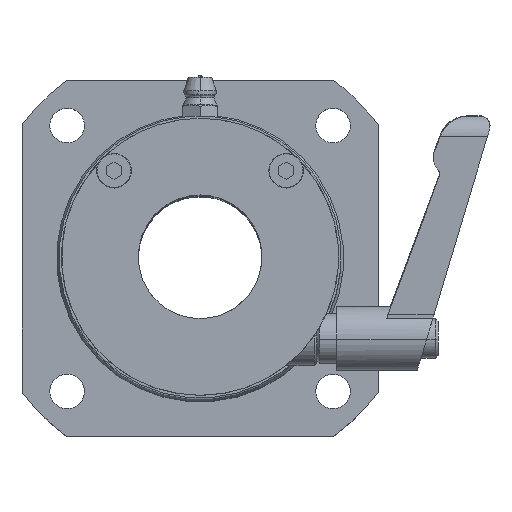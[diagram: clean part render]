
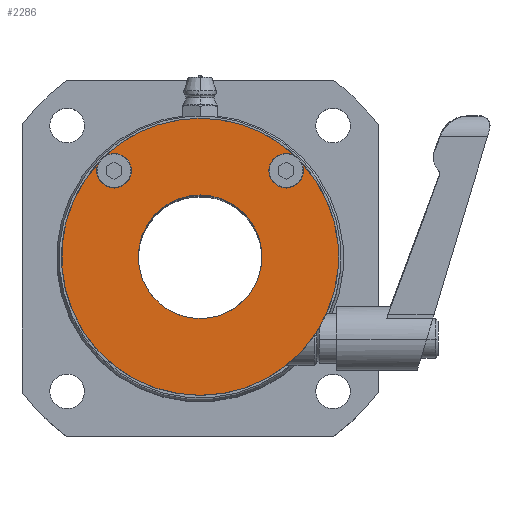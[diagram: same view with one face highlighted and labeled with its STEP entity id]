
A CAD part, top view. The second image highlights one B-rep face of the part: STEP entity #2286.
In plain terms, the highlighted planar face has unit normal (0, 0, 1).
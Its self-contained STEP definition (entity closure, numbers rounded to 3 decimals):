
#10 = CARTESIAN_POINT ( 'NONE',  ( -20.679, 16.844, 63.5 ) ) ;
#33 = DIRECTION ( 'NONE',  ( 0., 0., 1. ) ) ;
#173 = DIRECTION ( 'NONE',  ( 0., 0., 1. ) ) ;
#258 = AXIS2_PLACEMENT_3D ( 'NONE', #2091, #11200, #8413 ) ;
#379 = CARTESIAN_POINT ( 'NONE',  ( -6.779, -0.556, 63.5 ) ) ;
#464 = CARTESIAN_POINT ( 'NONE',  ( -6.779, -0.556, 63.5 ) ) ;
#700 = EDGE_CURVE ( 'NONE', #2029, #11515, #9970, .T. ) ;
#789 = CARTESIAN_POINT ( 'NONE',  ( 13.658, 18.583, 63.5 ) ) ;
#805 = VERTEX_POINT ( 'NONE', #3767 ) ;
#857 = EDGE_CURVE ( 'NONE', #4222, #7694, #6354, .T. ) ;
#991 = PLANE ( 'NONE',  #3355 ) ;
#1061 = AXIS2_PLACEMENT_3D ( 'NONE', #10235, #8246, #3588 ) ;
#1103 = CARTESIAN_POINT ( 'NONE',  ( 14.121, 16.844, 63.5 ) ) ;
#1120 = EDGE_CURVE ( 'NONE', #6531, #2127, #4078, .T. ) ;
#1237 = AXIS2_PLACEMENT_3D ( 'NONE', #3696, #7295, #4425 ) ;
#1346 = CARTESIAN_POINT ( 'NONE',  ( 10.621, 16.844, 63.5 ) ) ;
#1584 = DIRECTION ( 'NONE',  ( 1., 0., 0. ) ) ;
#1763 = FACE_BOUND ( 'NONE', #7623, .T. ) ;
#1855 = CARTESIAN_POINT ( 'NONE',  ( -24.179, 16.844, 63.5 ) ) ;
#2029 = VERTEX_POINT ( 'NONE', #9138 ) ;
#2031 = CARTESIAN_POINT ( 'NONE',  ( -6.779, -0.556, 63.5 ) ) ;
#2091 = CARTESIAN_POINT ( 'NONE',  ( 10.621, 16.844, 63.5 ) ) ;
#2118 = ORIENTED_EDGE ( 'NONE', *, *, #8564, .F. ) ;
#2127 = VERTEX_POINT ( 'NONE', #7693 ) ;
#2181 = VERTEX_POINT ( 'NONE', #6139 ) ;
#2230 = CARTESIAN_POINT ( 'NONE',  ( -6.779, 27.444, 63.5 ) ) ;
#2264 = DIRECTION ( 'NONE',  ( 0., 0., 1. ) ) ;
#2286 = ADVANCED_FACE ( 'NONE', ( #2711, #1763 ), #991, .T. ) ;
#2612 = ORIENTED_EDGE ( 'NONE', *, *, #8912, .F. ) ;
#2623 = DIRECTION ( 'NONE',  ( 1., 0., 0. ) ) ;
#2678 = ORIENTED_EDGE ( 'NONE', *, *, #8843, .T. ) ;
#2711 = FACE_OUTER_BOUND ( 'NONE', #8754, .T. ) ;
#2900 = ORIENTED_EDGE ( 'NONE', *, *, #700, .F. ) ;
#3355 = AXIS2_PLACEMENT_3D ( 'NONE', #3668, #173, #10991 ) ;
#3377 = ORIENTED_EDGE ( 'NONE', *, *, #5273, .T. ) ;
#3553 = EDGE_CURVE ( 'NONE', #2029, #6531, #7871, .T. ) ;
#3588 = DIRECTION ( 'NONE',  ( 0., -1., 0. ) ) ;
#3668 = CARTESIAN_POINT ( 'NONE',  ( -6.779, -0.556, 63.5 ) ) ;
#3696 = CARTESIAN_POINT ( 'NONE',  ( -24.179, 16.844, 63.5 ) ) ;
#3767 = CARTESIAN_POINT ( 'NONE',  ( -27.679, 16.844, 63.5 ) ) ;
#3855 = DIRECTION ( 'NONE',  ( 0., -1., 0. ) ) ;
#3877 = AXIS2_PLACEMENT_3D ( 'NONE', #7334, #10070, #3855 ) ;
#4078 = CIRCLE ( 'NONE', #3877, 28. ) ;
#4222 = VERTEX_POINT ( 'NONE', #1103 ) ;
#4245 = AXIS2_PLACEMENT_3D ( 'NONE', #9485, #9419, #7575 ) ;
#4370 = CARTESIAN_POINT ( 'NONE',  ( 7.121, 16.844, 63.5 ) ) ;
#4384 = ORIENTED_EDGE ( 'NONE', *, *, #9374, .F. ) ;
#4425 = DIRECTION ( 'NONE',  ( 1., 0., 0. ) ) ;
#4511 = CIRCLE ( 'NONE', #1061, 28. ) ;
#4536 = ORIENTED_EDGE ( 'NONE', *, *, #4565, .F. ) ;
#4565 = EDGE_CURVE ( 'NONE', #8164, #2181, #10839, .T. ) ;
#4629 = ORIENTED_EDGE ( 'NONE', *, *, #4657, .F. ) ;
#4657 = EDGE_CURVE ( 'NONE', #8472, #805, #8182, .T. ) ;
#4691 = CIRCLE ( 'NONE', #6037, 3.5 ) ;
#4775 = DIRECTION ( 'NONE',  ( 0., 0., 1. ) ) ;
#4819 = AXIS2_PLACEMENT_3D ( 'NONE', #10035, #7033, #10635 ) ;
#4983 = DIRECTION ( 'NONE',  ( 0., 0., 1. ) ) ;
#5177 = DIRECTION ( 'NONE',  ( 0., 0., 1. ) ) ;
#5273 = EDGE_CURVE ( 'NONE', #8472, #7714, #7510, .T. ) ;
#5416 = AXIS2_PLACEMENT_3D ( 'NONE', #2031, #4775, #5677 ) ;
#5514 = DIRECTION ( 'NONE',  ( 1., 0., 0. ) ) ;
#5677 = DIRECTION ( 'NONE',  ( 0., -1., 0. ) ) ;
#6037 = AXIS2_PLACEMENT_3D ( 'NONE', #8528, #33, #5514 ) ;
#6139 = CARTESIAN_POINT ( 'NONE',  ( -6.779, -13.056, 63.5 ) ) ;
#6354 = CIRCLE ( 'NONE', #258, 3.5 ) ;
#6531 = VERTEX_POINT ( 'NONE', #2230 ) ;
#6535 = ORIENTED_EDGE ( 'NONE', *, *, #857, .F. ) ;
#6999 = AXIS2_PLACEMENT_3D ( 'NONE', #464, #5177, #8805 ) ;
#7033 = DIRECTION ( 'NONE',  ( 0., 0., 1. ) ) ;
#7065 = AXIS2_PLACEMENT_3D ( 'NONE', #379, #2264, #8549 ) ;
#7295 = DIRECTION ( 'NONE',  ( 0., 0., 1. ) ) ;
#7334 = CARTESIAN_POINT ( 'NONE',  ( -6.779, -0.556, 63.5 ) ) ;
#7448 = CARTESIAN_POINT ( 'NONE',  ( -6.779, 11.944, 63.5 ) ) ;
#7510 = CIRCLE ( 'NONE', #5416, 28. ) ;
#7537 = CIRCLE ( 'NONE', #1237, 3.5 ) ;
#7575 = DIRECTION ( 'NONE',  ( 0., -1., 0. ) ) ;
#7623 = EDGE_LOOP ( 'NONE', ( #4536, #7964 ) ) ;
#7693 = CARTESIAN_POINT ( 'NONE',  ( -25.918, 19.881, 63.5 ) ) ;
#7694 = VERTEX_POINT ( 'NONE', #789 ) ;
#7714 = VERTEX_POINT ( 'NONE', #9100 ) ;
#7720 = CARTESIAN_POINT ( 'NONE',  ( -27.216, 18.583, 63.5 ) ) ;
#7871 = CIRCLE ( 'NONE', #4245, 28. ) ;
#7964 = ORIENTED_EDGE ( 'NONE', *, *, #8997, .F. ) ;
#8164 = VERTEX_POINT ( 'NONE', #7448 ) ;
#8182 = CIRCLE ( 'NONE', #8742, 3.5 ) ;
#8246 = DIRECTION ( 'NONE',  ( 0., 0., 1. ) ) ;
#8307 = CIRCLE ( 'NONE', #6999, 12.5 ) ;
#8413 = DIRECTION ( 'NONE',  ( 1., 0., 0. ) ) ;
#8454 = CIRCLE ( 'NONE', #10334, 3.5 ) ;
#8472 = VERTEX_POINT ( 'NONE', #7720 ) ;
#8528 = CARTESIAN_POINT ( 'NONE',  ( -24.179, 16.844, 63.5 ) ) ;
#8549 = DIRECTION ( 'NONE',  ( 0., -1., 0. ) ) ;
#8564 = EDGE_CURVE ( 'NONE', #11644, #2127, #7537, .T. ) ;
#8742 = AXIS2_PLACEMENT_3D ( 'NONE', #1855, #10119, #2623 ) ;
#8754 = EDGE_LOOP ( 'NONE', ( #3377, #2678, #6535, #4384, #2900, #8909, #11170, #2118, #2612, #4629 ) ) ;
#8805 = DIRECTION ( 'NONE',  ( 0., -1., 0. ) ) ;
#8843 = EDGE_CURVE ( 'NONE', #7714, #7694, #4511, .T. ) ;
#8909 = ORIENTED_EDGE ( 'NONE', *, *, #3553, .T. ) ;
#8912 = EDGE_CURVE ( 'NONE', #805, #11644, #4691, .T. ) ;
#8997 = EDGE_CURVE ( 'NONE', #2181, #8164, #8307, .T. ) ;
#9100 = CARTESIAN_POINT ( 'NONE',  ( -6.779, -28.556, 63.5 ) ) ;
#9138 = CARTESIAN_POINT ( 'NONE',  ( 12.361, 19.881, 63.5 ) ) ;
#9374 = EDGE_CURVE ( 'NONE', #11515, #4222, #8454, .T. ) ;
#9419 = DIRECTION ( 'NONE',  ( 0., 0., 1. ) ) ;
#9485 = CARTESIAN_POINT ( 'NONE',  ( -6.779, -0.556, 63.5 ) ) ;
#9970 = CIRCLE ( 'NONE', #4819, 3.5 ) ;
#10035 = CARTESIAN_POINT ( 'NONE',  ( 10.621, 16.844, 63.5 ) ) ;
#10070 = DIRECTION ( 'NONE',  ( 0., 0., 1. ) ) ;
#10119 = DIRECTION ( 'NONE',  ( 0., 0., 1. ) ) ;
#10235 = CARTESIAN_POINT ( 'NONE',  ( -6.779, -0.556, 63.5 ) ) ;
#10334 = AXIS2_PLACEMENT_3D ( 'NONE', #1346, #4983, #1584 ) ;
#10635 = DIRECTION ( 'NONE',  ( 1., 0., 0. ) ) ;
#10839 = CIRCLE ( 'NONE', #7065, 12.5 ) ;
#10991 = DIRECTION ( 'NONE',  ( 0., -1., 0. ) ) ;
#11170 = ORIENTED_EDGE ( 'NONE', *, *, #1120, .T. ) ;
#11200 = DIRECTION ( 'NONE',  ( 0., 0., 1. ) ) ;
#11515 = VERTEX_POINT ( 'NONE', #4370 ) ;
#11644 = VERTEX_POINT ( 'NONE', #10 ) ;
